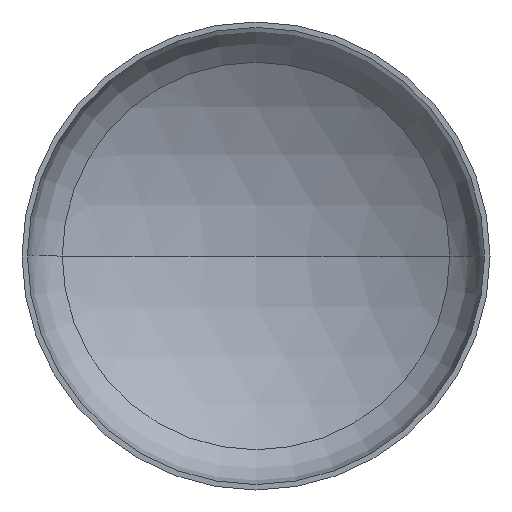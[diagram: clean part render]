
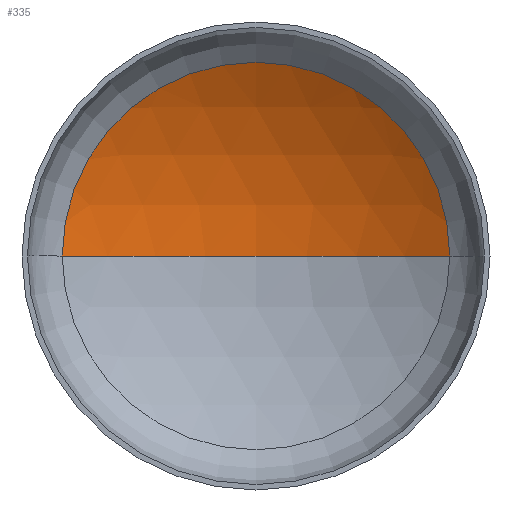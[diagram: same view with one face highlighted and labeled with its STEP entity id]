
A CAD part, front view. The second image highlights one B-rep face of the part: STEP entity #335.
In plain terms, the highlighted spherical face has radius 2880 mm.
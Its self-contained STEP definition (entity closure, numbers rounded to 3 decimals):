
#3 = AXIS2_PLACEMENT_3D ( 'NONE', #321, #173, #354 ) ;
#7 = AXIS2_PLACEMENT_3D ( 'NONE', #220, #38, #162 ) ;
#13 = AXIS2_PLACEMENT_3D ( 'NONE', #393, #130, #189 ) ;
#14 = EDGE_LOOP ( 'NONE', ( #109, #102, #51 ) ) ;
#38 = DIRECTION ( 'NONE',  ( 0., 0., 1. ) ) ;
#51 = ORIENTED_EDGE ( 'NONE', *, *, #379, .T. ) ;
#79 = DIRECTION ( 'NONE',  ( 1., 0., 0. ) ) ;
#89 = VERTEX_POINT ( 'NONE', #325 ) ;
#102 = ORIENTED_EDGE ( 'NONE', *, *, #376, .T. ) ;
#109 = ORIENTED_EDGE ( 'NONE', *, *, #359, .F. ) ;
#111 = VERTEX_POINT ( 'NONE', #299 ) ;
#130 = DIRECTION ( 'NONE',  ( 0., 0., -1. ) ) ;
#148 = CIRCLE ( 'NONE', #3, 2880. ) ;
#155 = CIRCLE ( 'NONE', #7, 2880. ) ;
#161 = VERTEX_POINT ( 'NONE', #204 ) ;
#162 = DIRECTION ( 'NONE',  ( 1., 0., 0. ) ) ;
#164 = FACE_OUTER_BOUND ( 'NONE', #14, .T. ) ;
#173 = DIRECTION ( 'NONE',  ( 0., 0., -1. ) ) ;
#179 = AXIS2_PLACEMENT_3D ( 'NONE', #262, #264, #79 ) ;
#189 = DIRECTION ( 'NONE',  ( -1., 0., 0. ) ) ;
#204 = CARTESIAN_POINT ( 'NONE',  ( -1490.168, 604.931, 0. ) ) ;
#220 = CARTESIAN_POINT ( 'NONE',  ( 0., -1859.577, 0. ) ) ;
#262 = CARTESIAN_POINT ( 'NONE',  ( 0., 604.931, 0. ) ) ;
#264 = DIRECTION ( 'NONE',  ( 0., -1., 0. ) ) ;
#299 = CARTESIAN_POINT ( 'NONE',  ( 0., 1020.423, 0. ) ) ;
#321 = CARTESIAN_POINT ( 'NONE',  ( 0., -1859.577, 0. ) ) ;
#325 = CARTESIAN_POINT ( 'NONE',  ( 1490.168, 604.931, 0. ) ) ;
#335 = ADVANCED_FACE ( 'NONE', ( #164 ), #360, .F. ) ;
#354 = DIRECTION ( 'NONE',  ( -1., 0., 0. ) ) ;
#356 = CIRCLE ( 'NONE', #179, 1490.168 ) ;
#359 = EDGE_CURVE ( 'NONE', #111, #161, #155, .T. ) ;
#360 = SPHERICAL_SURFACE ( 'NONE', #13, 2880. ) ;
#376 = EDGE_CURVE ( 'NONE', #111, #89, #148, .T. ) ;
#379 = EDGE_CURVE ( 'NONE', #89, #161, #356, .T. ) ;
#393 = CARTESIAN_POINT ( 'NONE',  ( 0., -1859.577, 0. ) ) ;
